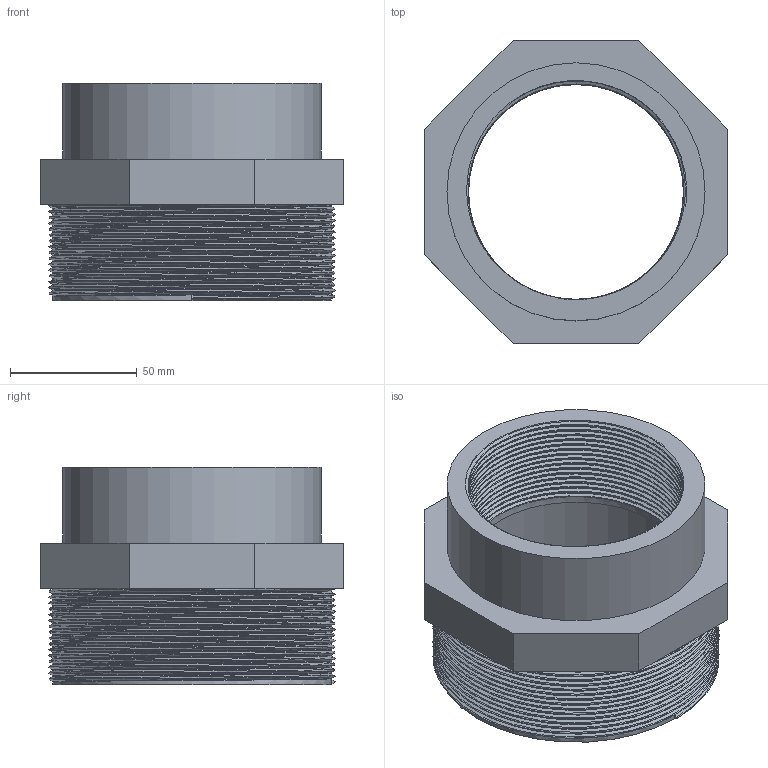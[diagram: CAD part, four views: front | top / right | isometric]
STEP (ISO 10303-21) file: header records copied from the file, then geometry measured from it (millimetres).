
FILE_DESCRIPTION(/* description */ (''),/* implementation_level */ '2;1');
FILE_NAME(/* name */ 'C:\Users\POLYPIPE\Desktop\DATASET INVENTOR\LIBRERIA EFFAST\RACCORDI 3DxWEB\RER\3D_RERRIE\3D_RERRIE110I.stp',/* time_stamp */ '2018-01-19T17:15:03+01:00',/* author */ ('POLYPIPE'),/* organization */ ('Polypipe Italia'),/* preprocessor_version */ 'ST-DEVELOPER v16.1',/* originating_system */ 'Autodesk Inventor 2016',/* authorisation */ '');
FILE_SCHEMA (('CONFIG_CONTROL_DESIGN'));
Length unit declared in the file: millimetre
Products named in the file (1): 3D_RERRIE110I
Bounding box: 120 x 120 x 86 mm (x, y, z)
Volume: 258488.7 mm3; surface area: 83141.9 mm2
Topology: 1 solids, 1 shells, 29 faces, 68 edges, 44 vertices
Faces by surface type: plane 15, bspline 10, cylinder 4
Full cylindrical faces by diameter (mm): 84.926 x1, 96.5 x1, 102 x1, 110.072 x1
Entity records: 13089 total; most frequent: CARTESIAN_POINT 12474, ORIENTED_EDGE 128, DIRECTION 94, EDGE_CURVE 64, VERTEX_POINT 43, EDGE_LOOP 37, AXIS2_PLACEMENT_3D 32, LINE 30
